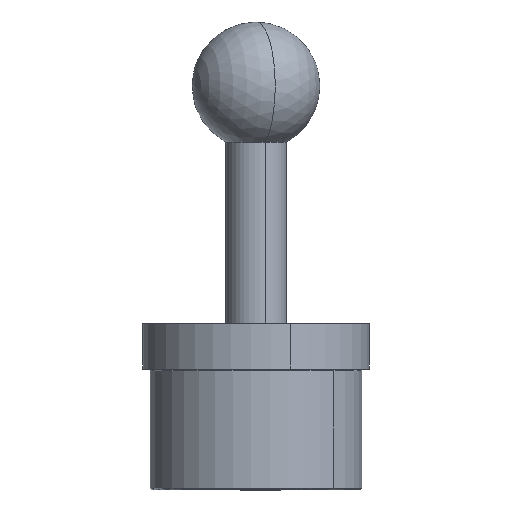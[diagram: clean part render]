
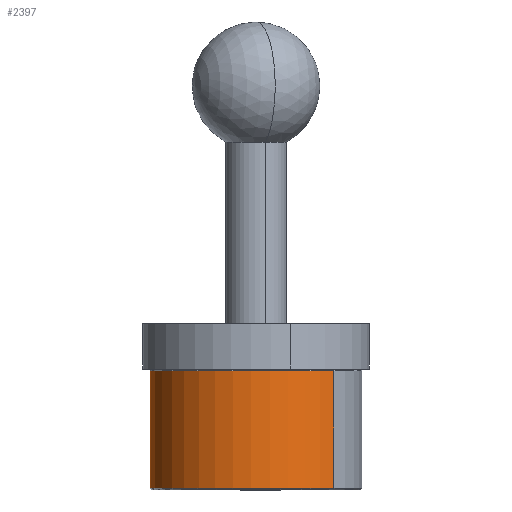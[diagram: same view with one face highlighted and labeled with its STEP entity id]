
A CAD part, front view. The second image highlights one B-rep face of the part: STEP entity #2397.
In plain terms, the highlighted cylindrical face has radius 14 mm (diameter 28 mm), a partial arc.
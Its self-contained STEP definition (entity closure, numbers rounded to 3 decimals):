
#55 = CONICAL_SURFACE('',#56,1.,0.785);
#56 = AXIS2_PLACEMENT_3D('',#57,#58,#59);
#57 = CARTESIAN_POINT('',(0.,0.,-12.8));
#58 = DIRECTION('',(0.,0.,1.));
#59 = DIRECTION('',(1.,0.,0.));
#84 = VERTEX_POINT('',#85);
#85 = CARTESIAN_POINT('',(-14.,0.,0.2));
#111 = EDGE_CURVE('',#84,#112,#114,.T.);
#112 = VERTEX_POINT('',#113);
#113 = CARTESIAN_POINT('',(14.,0.,0.2));
#114 = SURFACE_CURVE('',#115,(#120,#127),.PCURVE_S1.);
#115 = CIRCLE('',#116,14.);
#116 = AXIS2_PLACEMENT_3D('',#117,#118,#119);
#117 = CARTESIAN_POINT('',(0.,0.,0.2));
#118 = DIRECTION('',(0.,0.,-1.));
#119 = DIRECTION('',(1.,0.,0.));
#120 = PCURVE('',#55,#121);
#121 = DEFINITIONAL_REPRESENTATION('',(#122),#126);
#122 = LINE('',#123,#124);
#123 = CARTESIAN_POINT('',(6.283,13.));
#124 = VECTOR('',#125,1.);
#125 = DIRECTION('',(-1.,0.));
#126 = ( GEOMETRIC_REPRESENTATION_CONTEXT(2) 
PARAMETRIC_REPRESENTATION_CONTEXT() REPRESENTATION_CONTEXT('2D SPACE',''
  ) );
#127 = PCURVE('',#128,#133);
#128 = CYLINDRICAL_SURFACE('',#129,14.);
#129 = AXIS2_PLACEMENT_3D('',#130,#131,#132);
#130 = CARTESIAN_POINT('',(0.,0.,16.));
#131 = DIRECTION('',(0.,0.,-1.));
#132 = DIRECTION('',(-1.,0.,0.));
#133 = DEFINITIONAL_REPRESENTATION('',(#134),#138);
#134 = LINE('',#135,#136);
#135 = CARTESIAN_POINT('',(-3.142,15.8));
#136 = VECTOR('',#137,1.);
#137 = DIRECTION('',(1.,0.));
#138 = ( GEOMETRIC_REPRESENTATION_CONTEXT(2) 
PARAMETRIC_REPRESENTATION_CONTEXT() REPRESENTATION_CONTEXT('2D SPACE',''
  ) );
#2397 = ADVANCED_FACE('',(#2398),#128,.T.);
#2398 = FACE_BOUND('',#2399,.T.);
#2399 = EDGE_LOOP('',(#2400,#2431,#2457,#2458));
#2400 = ORIENTED_EDGE('',*,*,#2401,.F.);
#2401 = EDGE_CURVE('',#2402,#2404,#2406,.T.);
#2402 = VERTEX_POINT('',#2403);
#2403 = CARTESIAN_POINT('',(14.,0.,15.8));
#2404 = VERTEX_POINT('',#2405);
#2405 = CARTESIAN_POINT('',(-14.,0.,15.8));
#2406 = SURFACE_CURVE('',#2407,(#2412,#2419),.PCURVE_S1.);
#2407 = CIRCLE('',#2408,14.);
#2408 = AXIS2_PLACEMENT_3D('',#2409,#2410,#2411);
#2409 = CARTESIAN_POINT('',(0.,0.,15.8)
  );
#2410 = DIRECTION('',(0.,0.,1.));
#2411 = DIRECTION('',(-1.,0.,0.));
#2412 = PCURVE('',#128,#2413);
#2413 = DEFINITIONAL_REPRESENTATION('',(#2414),#2418);
#2414 = LINE('',#2415,#2416);
#2415 = CARTESIAN_POINT('',(6.283,0.2));
#2416 = VECTOR('',#2417,1.);
#2417 = DIRECTION('',(-1.,0.));
#2418 = ( GEOMETRIC_REPRESENTATION_CONTEXT(2) 
PARAMETRIC_REPRESENTATION_CONTEXT() REPRESENTATION_CONTEXT('2D SPACE',''
  ) );
#2419 = PCURVE('',#2420,#2425);
#2420 = CONICAL_SURFACE('',#2421,13.8,0.785);
#2421 = AXIS2_PLACEMENT_3D('',#2422,#2423,#2424);
#2422 = CARTESIAN_POINT('',(0.,0.,16.));
#2423 = DIRECTION('',(0.,0.,-1.));
#2424 = DIRECTION('',(-1.,0.,0.));
#2425 = DEFINITIONAL_REPRESENTATION('',(#2426),#2430);
#2426 = LINE('',#2427,#2428);
#2427 = CARTESIAN_POINT('',(6.283,0.2));
#2428 = VECTOR('',#2429,1.);
#2429 = DIRECTION('',(-1.,0.));
#2430 = ( GEOMETRIC_REPRESENTATION_CONTEXT(2) 
PARAMETRIC_REPRESENTATION_CONTEXT() REPRESENTATION_CONTEXT('2D SPACE',''
  ) );
#2431 = ORIENTED_EDGE('',*,*,#2432,.T.);
#2432 = EDGE_CURVE('',#2402,#112,#2433,.T.);
#2433 = SURFACE_CURVE('',#2434,(#2438,#2445),.PCURVE_S1.);
#2434 = LINE('',#2435,#2436);
#2435 = CARTESIAN_POINT('',(14.,0.,16.));
#2436 = VECTOR('',#2437,1.);
#2437 = DIRECTION('',(0.,0.,-1.));
#2438 = PCURVE('',#128,#2439);
#2439 = DEFINITIONAL_REPRESENTATION('',(#2440),#2444);
#2440 = LINE('',#2441,#2442);
#2441 = CARTESIAN_POINT('',(3.142,0.));
#2442 = VECTOR('',#2443,1.);
#2443 = DIRECTION('',(0.,1.));
#2444 = ( GEOMETRIC_REPRESENTATION_CONTEXT(2) 
PARAMETRIC_REPRESENTATION_CONTEXT() REPRESENTATION_CONTEXT('2D SPACE',''
  ) );
#2445 = PCURVE('',#2446,#2451);
#2446 = CYLINDRICAL_SURFACE('',#2447,14.);
#2447 = AXIS2_PLACEMENT_3D('',#2448,#2449,#2450);
#2448 = CARTESIAN_POINT('',(0.,0.,16.)
  );
#2449 = DIRECTION('',(0.,0.,-1.));
#2450 = DIRECTION('',(-1.,0.,0.));
#2451 = DEFINITIONAL_REPRESENTATION('',(#2452),#2456);
#2452 = LINE('',#2453,#2454);
#2453 = CARTESIAN_POINT('',(3.142,0.));
#2454 = VECTOR('',#2455,1.);
#2455 = DIRECTION('',(0.,1.));
#2456 = ( GEOMETRIC_REPRESENTATION_CONTEXT(2) 
PARAMETRIC_REPRESENTATION_CONTEXT() REPRESENTATION_CONTEXT('2D SPACE',''
  ) );
#2457 = ORIENTED_EDGE('',*,*,#111,.F.);
#2458 = ORIENTED_EDGE('',*,*,#2459,.F.);
#2459 = EDGE_CURVE('',#2404,#84,#2460,.T.);
#2460 = SURFACE_CURVE('',#2461,(#2465,#2472),.PCURVE_S1.);
#2461 = LINE('',#2462,#2463);
#2462 = CARTESIAN_POINT('',(-14.,0.,16.));
#2463 = VECTOR('',#2464,1.);
#2464 = DIRECTION('',(0.,0.,-1.));
#2465 = PCURVE('',#128,#2466);
#2466 = DEFINITIONAL_REPRESENTATION('',(#2467),#2471);
#2467 = LINE('',#2468,#2469);
#2468 = CARTESIAN_POINT('',(0.,0.));
#2469 = VECTOR('',#2470,1.);
#2470 = DIRECTION('',(0.,1.));
#2471 = ( GEOMETRIC_REPRESENTATION_CONTEXT(2) 
PARAMETRIC_REPRESENTATION_CONTEXT() REPRESENTATION_CONTEXT('2D SPACE',''
  ) );
#2472 = PCURVE('',#2446,#2473);
#2473 = DEFINITIONAL_REPRESENTATION('',(#2474),#2478);
#2474 = LINE('',#2475,#2476);
#2475 = CARTESIAN_POINT('',(6.283,0.));
#2476 = VECTOR('',#2477,1.);
#2477 = DIRECTION('',(0.,1.));
#2478 = ( GEOMETRIC_REPRESENTATION_CONTEXT(2) 
PARAMETRIC_REPRESENTATION_CONTEXT() REPRESENTATION_CONTEXT('2D SPACE',''
  ) );
